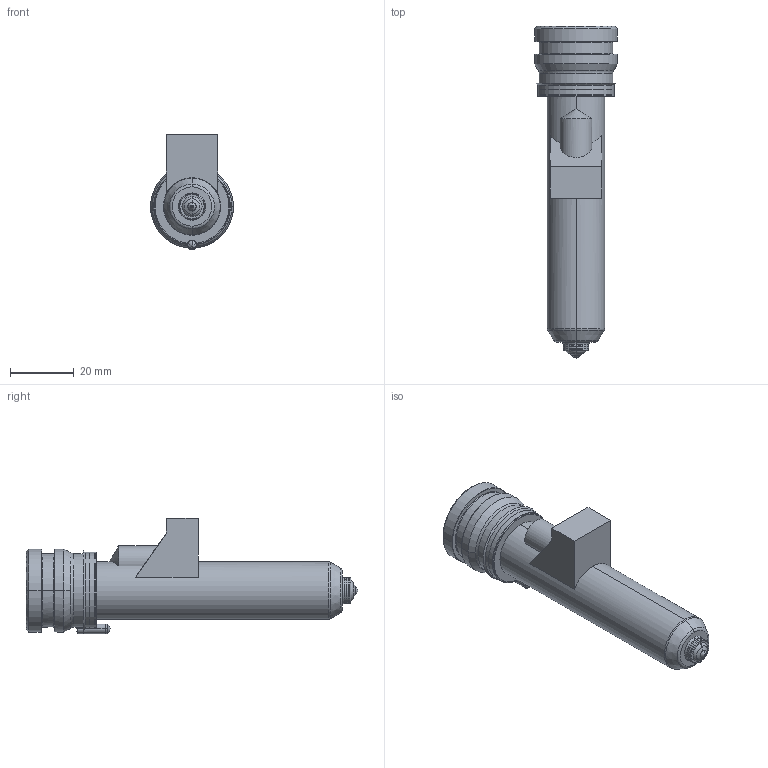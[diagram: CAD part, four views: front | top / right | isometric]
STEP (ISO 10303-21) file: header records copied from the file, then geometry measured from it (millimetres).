
FILE_DESCRIPTION((''),'2;1');
FILE_NAME('TH18086-M-1GLT-PK-JG','2023-12-14T',('umhib'),('Thermoplay S.p.A.'),'PRO/ENGINEER BY PARAMETRIC TECHNOLOGY CORPORATION, 2017170','PRO/ENGINEER BY PARAMETRIC TECHNOLOGY CORPORATION, 2017170','');
FILE_SCHEMA(('CONFIG_CONTROL_DESIGN'));
Length unit declared in the file: millimetre
Products named in the file (1): TH18086-M-1GLT-PK-JG
Bounding box: 26 x 104 x 36.1 mm (x, y, z)
Volume: 22463.2 mm3; surface area: 17553.1 mm2
Topology: 1 solids, 2 shells, 413 faces, 1052 edges, 647 vertices
Faces by surface type: cylinder 160, plane 92, cone 64, torus 64, bspline 22, sphere 9, extrusion 2
Entity records: 16933 total; most frequent: CARTESIAN_POINT 4935, DIRECTION 2166, ORIENTED_EDGE 2078, EDGE_CURVE 1041, AXIS2_PLACEMENT_3D 881, VERTEX_POINT 647, CIRCLE 491, EDGE_LOOP 441
